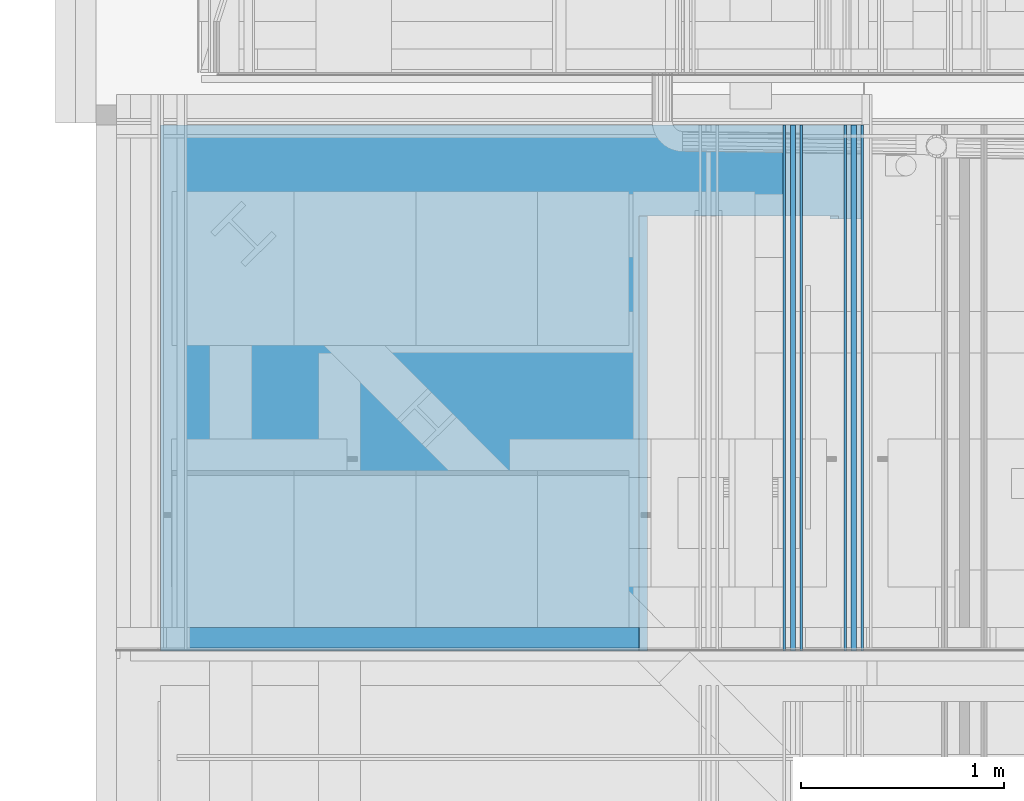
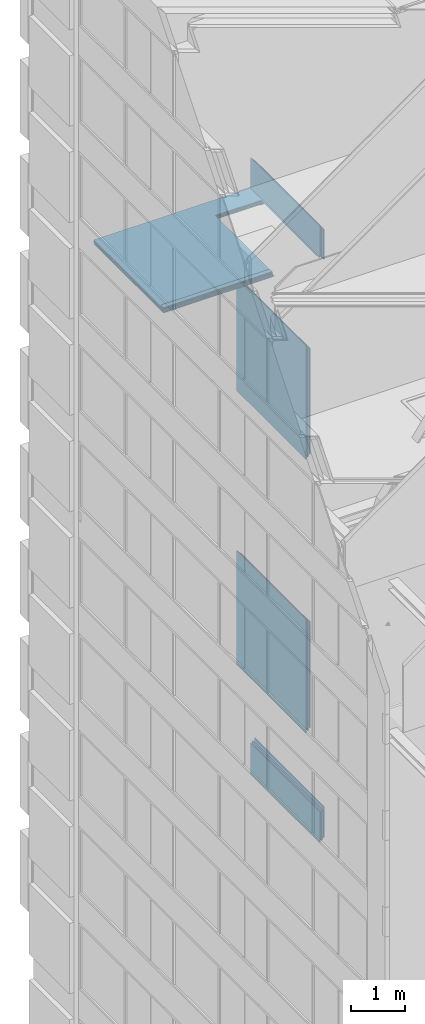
# One storey, part 85 of 583: 17 building element parts, 3 openings, 5 elements without a shape of their own.
"""IFC2X3 building model written with IfcOpenShell, lengths in metres."""

from ifc_helpers import new_model, entity, si_unit, converted_unit, derived_unit, money_unit, direction, frame, frame_2d, origin_with_axes, place, context, subcontext, project, spatial, polyline, rectangle, outline, extrude, material, type_object, element, aggregate, save


model = new_model("IFC2X3")

# Units and contexts
model_context = context("Model", 3, precision=1e-05, world=origin_with_axes(), true_north=direction((0.0, 1.0)))
body_context = subcontext(model_context, "Body", "Model", "MODEL_VIEW", scale=1.0)
ifc_project = project(units=[si_unit("LENGTHUNIT", "METRE"), si_unit("AREAUNIT", "SQUARE_METRE"), si_unit("VOLUMEUNIT", "CUBIC_METRE"), si_unit("ABSORBEDDOSEUNIT", "GRAY"), si_unit("AMOUNTOFSUBSTANCEUNIT", "MOLE"), si_unit("DOSEEQUIVALENTUNIT", "SIEVERT"), si_unit("ELECTRICCAPACITANCEUNIT", "FARAD"), si_unit("ELECTRICCHARGEUNIT", "COULOMB"), si_unit("ELECTRICCONDUCTANCEUNIT", "SIEMENS"), si_unit("ELECTRICCURRENTUNIT", "AMPERE"), si_unit("ELECTRICRESISTANCEUNIT", "OHM"), si_unit("ELECTRICVOLTAGEUNIT", "VOLT"), si_unit("ENERGYUNIT", "JOULE"), si_unit("FORCEUNIT", "NEWTON"), si_unit("FREQUENCYUNIT", "HERTZ"), si_unit("ILLUMINANCEUNIT", "LUX"), si_unit("INDUCTANCEUNIT", "HENRY"), si_unit("LUMINOUSFLUXUNIT", "LUMEN"), si_unit("LUMINOUSINTENSITYUNIT", "CANDELA"), si_unit("MAGNETICFLUXDENSITYUNIT", "TESLA"), si_unit("MAGNETICFLUXUNIT", "WEBER"), si_unit("MASSUNIT", "GRAM"), converted_unit("PLANEANGLEUNIT", "degree", entity("IfcReal", 0.0174532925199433), si_unit("PLANEANGLEUNIT", "RADIAN"), dimensions=[0, 0, 0, 0, 0, 0, 0]), si_unit("POWERUNIT", "WATT"), si_unit("PRESSUREUNIT", "PASCAL"), si_unit("RADIOACTIVITYUNIT", "BECQUEREL"), si_unit("SOLIDANGLEUNIT", "STERADIAN"), si_unit("THERMODYNAMICTEMPERATUREUNIT", "KELVIN"), si_unit("TIMEUNIT", "SECOND"), derived_unit("ACCELERATIONUNIT", [(si_unit("LENGTHUNIT", "METRE"), 1), (si_unit("TIMEUNIT", "SECOND"), -2)]), derived_unit("ANGULARVELOCITYUNIT", [(converted_unit("PLANEANGLEUNIT", "degree", entity("IfcReal", 0.0174532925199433), si_unit("PLANEANGLEUNIT", "RADIAN"), dimensions=[0, 0, 0, 0, 0, 0, 0]), 1), (si_unit("TIMEUNIT", "SECOND"), -1)]), derived_unit("CURVATUREUNIT", [(converted_unit("PLANEANGLEUNIT", "degree", entity("IfcReal", 0.0174532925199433), si_unit("PLANEANGLEUNIT", "RADIAN"), dimensions=[0, 0, 0, 0, 0, 0, 0]), 1), (si_unit("LENGTHUNIT", "METRE"), -1)]), derived_unit("DYNAMICVISCOSITYUNIT", [(si_unit("PRESSUREUNIT", "PASCAL"), 1), (si_unit("TIMEUNIT", "SECOND"), 1)]), derived_unit("HEATFLUXDENSITYUNIT", [(si_unit("POWERUNIT", "WATT"), 1), (si_unit("LENGTHUNIT", "METRE"), -2)]), derived_unit("HEATINGVALUEUNIT", [(si_unit("ENERGYUNIT", "JOULE"), 1), (si_unit("MASSUNIT", "GRAM"), -1)]), derived_unit("INTEGERCOUNTRATEUNIT", [(si_unit("TIMEUNIT", "SECOND"), -1)]), derived_unit("IONCONCENTRATIONUNIT", [(si_unit("MASSUNIT", "GRAM"), 1), (si_unit("VOLUMEUNIT", "CUBIC_METRE"), -1)]), derived_unit("ISOTHERMALMOISTURECAPACITYUNIT", [(si_unit("VOLUMEUNIT", "CUBIC_METRE"), 1), (si_unit("MASSUNIT", "GRAM"), -1)]), derived_unit("KINEMATICVISCOSITYUNIT", [(si_unit("AREAUNIT", "SQUARE_METRE"), 1), (si_unit("TIMEUNIT", "SECOND"), -1)]), derived_unit("LINEARFORCEUNIT", [(si_unit("FORCEUNIT", "NEWTON"), 1), (si_unit("LENGTHUNIT", "METRE"), -1)]), derived_unit("LINEARMOMENTUNIT", [(si_unit("FORCEUNIT", "NEWTON"), 1), (si_unit("LENGTHUNIT", "METRE"), -1)]), derived_unit("LINEARSTIFFNESSUNIT", [(si_unit("FORCEUNIT", "NEWTON"), 1), (si_unit("LENGTHUNIT", "METRE"), -1)]), derived_unit("LINEARVELOCITYUNIT", [(si_unit("LENGTHUNIT", "METRE"), 1), (si_unit("TIMEUNIT", "SECOND"), -1)]), derived_unit("LUMINOUSINTENSITYDISTRIBUTIONUNIT", [(si_unit("LUMINOUSINTENSITYUNIT", "CANDELA"), 1), (si_unit("LUMINOUSFLUXUNIT", "LUMEN"), -1)]), derived_unit("MASSDENSITYUNIT", [(si_unit("MASSUNIT", "GRAM"), 1), (si_unit("VOLUMEUNIT", "CUBIC_METRE"), -1)]), derived_unit("MASSFLOWRATEUNIT", [(si_unit("MASSUNIT", "GRAM"), 1), (si_unit("TIMEUNIT", "SECOND"), -1)]), derived_unit("MASSPERLENGTHUNIT", [(si_unit("MASSUNIT", "GRAM"), 1), (si_unit("LENGTHUNIT", "METRE"), -1)]), derived_unit("MODULUSOFELASTICITYUNIT", [(si_unit("FORCEUNIT", "NEWTON"), 1), (si_unit("AREAUNIT", "SQUARE_METRE"), -1)]), derived_unit("MODULUSOFLINEARSUBGRADEREACTIONUNIT", [(si_unit("FORCEUNIT", "NEWTON"), 1), (si_unit("LENGTHUNIT", "METRE"), -2)]), derived_unit("MODULUSOFROTATIONALSUBGRADEREACTIONUNIT", [(si_unit("FORCEUNIT", "NEWTON"), 1), (si_unit("LENGTHUNIT", "METRE"), 1)]), derived_unit("MODULUSOFSUBGRADEREACTIONUNIT", [(si_unit("FORCEUNIT", "NEWTON"), 1), (si_unit("VOLUMEUNIT", "CUBIC_METRE"), -1)]), derived_unit("MOISTUREDIFFUSIVITYUNIT", [(si_unit("VOLUMEUNIT", "CUBIC_METRE"), 1), (si_unit("TIMEUNIT", "SECOND"), -1)]), derived_unit("MOLECULARWEIGHTUNIT", [(si_unit("MASSUNIT", "GRAM"), 1), (si_unit("AMOUNTOFSUBSTANCEUNIT", "MOLE"), -1)]), derived_unit("PLANARFORCEUNIT", [(si_unit("FORCEUNIT", "NEWTON"), 1), (si_unit("LENGTHUNIT", "METRE"), -2)]), derived_unit("ROTATIONALFREQUENCYUNIT", [(si_unit("TIMEUNIT", "SECOND"), -1)]), derived_unit("ROTATIONALMASSUNIT", [(si_unit("MASSUNIT", "GRAM"), 1), (si_unit("LENGTHUNIT", "METRE"), 2)]), derived_unit("ROTATIONALSTIFFNESSUNIT", [(si_unit("FORCEUNIT", "NEWTON"), 1), (si_unit("LENGTHUNIT", "METRE"), 1), (converted_unit("PLANEANGLEUNIT", "degree", entity("IfcReal", 0.0174532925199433), si_unit("PLANEANGLEUNIT", "RADIAN"), dimensions=[0, 0, 0, 0, 0, 0, 0]), -1)]), derived_unit("SECTIONAREAINTEGRALUNIT", [(si_unit("LENGTHUNIT", "METRE"), 5)]), derived_unit("SECTIONMODULUSUNIT", [(si_unit("LENGTHUNIT", "METRE"), 3)]), derived_unit("SHEARMODULUSUNIT", [(si_unit("FORCEUNIT", "NEWTON"), 1), (si_unit("AREAUNIT", "SQUARE_METRE"), -1)]), derived_unit("SOUNDPOWERUNIT", [(si_unit("ENERGYUNIT", "JOULE"), 1), (si_unit("TIMEUNIT", "SECOND"), -1)]), derived_unit("SPECIFICHEATCAPACITYUNIT", [(si_unit("FORCEUNIT", "NEWTON"), 1), (si_unit("MASSUNIT", "GRAM"), -1), (si_unit("THERMODYNAMICTEMPERATUREUNIT", "KELVIN"), -1)]), derived_unit("TEMPERATUREGRADIENTUNIT", [(si_unit("THERMODYNAMICTEMPERATUREUNIT", "KELVIN"), 1), (si_unit("LENGTHUNIT", "METRE"), -1)]), derived_unit("THERMALADMITTANCEUNIT", [(si_unit("POWERUNIT", "WATT"), 1), (si_unit("AREAUNIT", "SQUARE_METRE"), -1), (si_unit("THERMODYNAMICTEMPERATUREUNIT", "KELVIN"), -1)]), derived_unit("THERMALCONDUCTANCEUNIT", [(si_unit("POWERUNIT", "WATT"), 1), (si_unit("LENGTHUNIT", "METRE"), -1), (si_unit("THERMODYNAMICTEMPERATUREUNIT", "KELVIN"), -1)]), derived_unit("THERMALEXPANSIONCOEFFICIENTUNIT", [(si_unit("THERMODYNAMICTEMPERATUREUNIT", "KELVIN"), -1)]), derived_unit("THERMALRESISTANCEUNIT", [(si_unit("AREAUNIT", "SQUARE_METRE"), 1), (si_unit("POWERUNIT", "WATT"), -1)]), derived_unit("THERMALTRANSMITTANCEUNIT", [(si_unit("POWERUNIT", "WATT"), 1), (si_unit("AREAUNIT", "SQUARE_METRE"), -1), (si_unit("THERMODYNAMICTEMPERATUREUNIT", "KELVIN"), -1)]), derived_unit("TORQUEUNIT", [(si_unit("FORCEUNIT", "NEWTON"), 1), (si_unit("LENGTHUNIT", "METRE"), 1)]), derived_unit("VAPORPERMEABILITYUNIT", [(si_unit("MASSUNIT", "GRAM"), 1), (si_unit("TIMEUNIT", "SECOND"), -1)]), derived_unit("VOLUMETRICFLOWRATEUNIT", [(si_unit("VOLUMEUNIT", "CUBIC_METRE"), 1), (si_unit("TIMEUNIT", "SECOND"), -1)]), derived_unit("WARPINGCONSTANTUNIT", [(si_unit("LENGTHUNIT", "METRE"), 6)]), derived_unit("WARPINGMOMENTUNIT", [(si_unit("FORCEUNIT", "NEWTON"), 1), (si_unit("LENGTHUNIT", "METRE"), 2)]), money_unit("GBP")], contexts=[model_context])

# Site, building, storey
site_placement = place(None, origin_with_axes())
site = spatial("IfcSite", under=ifc_project, at=site_placement, Name="Site", CompositionType="ELEMENT")
building_placement = place(site_placement, origin_with_axes())
building = spatial("IfcBuilding", under=site, at=building_placement, Name="Building01", CompositionType="ELEMENT")
storey_placement = place(building_placement, frame((0.0, 0.0, 20.78), z_axis=(0.0, 0.0, 1.0), x_axis=(1.0, 0.0, 0.0)))
storey = spatial("IfcBuildingStorey", under=building, at=storey_placement, Name="RL", CompositionType="ELEMENT", Elevation=20.78)

# Wall, building element parts
wall_type = type_object("IfcWallType", Name="SHE_A-Walls_Type05a_Partition_95mm_tall", PredefinedType="NOTDEFINED")
wall_1_placement = place(storey_placement, frame((3.72, 12.13, -13.545), z_axis=(0.0, 1.0, 0.0), x_axis=(0.0, 0.0, -1.0)))
wall_1 = element("IfcWall", 1, at=wall_1_placement, inside=storey, type_object=wall_type, Name="5A", ObjectType="SHE_A-Walls_Type05a_Partition_95mm_tall")
ifc_material_1 = material(Name="A_BSUK_Insulation")
placement_1 = place(wall_1_placement, origin_with_axes())
building_element_part_1 = element("IfcBuildingElementPart", 2, at=placement_1, material=ifc_material_1, Name="1", context=body_context, shape_type="SweptSolid", body=[
    extrude(outline(polyline([(0.7, 0.0), (0.0, 0.0), (0.0, -0.025), (0.675, -0.025), (0.7, 0.0)])), origin_with_axes(), (0.0, 0.0, 1.0), 2.59),
])
ifc_material_2 = material(Name="A_BSUK_WallInternal_Finishes_Plasterboard")
building_element_part_2 = element("IfcBuildingElementPart", 3, at=placement_1, material=ifc_material_2, Name="4", context=body_context, shape_type="SweptSolid", body=[
    extrude(outline(polyline([(0.735, 0.035), (0.035, 0.035), (0.023, 0.023), (0.723, 0.023), (0.735, 0.035)])), origin_with_axes(), (0.0, 0.0, 1.0), 2.59),
])
building_element_part_3 = element("IfcBuildingElementPart", 4, at=placement_1, material=ifc_material_2, Name="5", context=body_context, shape_type="SweptSolid", body=[
    extrude(outline(polyline([(0.652, -0.048), (-0.048, -0.048), (-0.06, -0.06), (0.64, -0.06), (0.652, -0.048)])), origin_with_axes(), (0.0, 0.0, 1.0), 2.59),
])
aggregate(wall_1, [building_element_part_1, building_element_part_2, building_element_part_3])

# Wall, openings, building element parts
wall_2_placement = place(storey_placement, frame((3.745, 12.13, -1.03), z_axis=(0.0, 1.0, 0.0), x_axis=(-1.0, 0.0, 0.0)))
wall_2 = element("IfcWall", 5, at=wall_2_placement, inside=storey, type_object=wall_type, Name="5A", ObjectType="SHE_A-Walls_Type05a_Partition_95mm_tall")
opening_1_placement = place(wall_2_placement, frame((-0.490781, -0.035, -0.015), z_axis=(0.0, 0.0, 1.0), x_axis=(1.0, 0.0, 0.0)))
element("IfcOpeningElement", 6, at=opening_1_placement, cuts=wall_2, Name="Opening", ObjectType="Opening", context=body_context, shape_type="SweptSolid", body=[
    extrude(rectangle(XDim=2.142, YDim=1.084, at=frame_2d((-0.542, 1.071), x_axis=(0.0, -1.0))), frame((0.0, -0.09, 0.0), z_axis=(0.0, 1.0, 0.0), x_axis=(-1.0, 0.0, 0.0)), (0.0, 0.0, 1.0), 0.18),
])
opening_2_placement = place(wall_2_placement, frame((0.129, 0.079, 0.0), z_axis=(0.0, 0.0, 1.0), x_axis=(1.0, 0.0, 0.0)))
element("IfcOpeningElement", 7, at=opening_2_placement, cuts=wall_2, Name="Opening", ObjectType="Opening", context=body_context, shape_type="SweptSolid", body=[
    extrude(rectangle(XDim=2.142, YDim=0.9, at=frame_2d((-0.45, 1.071), x_axis=(0.0, -1.0))), frame((0.0, -0.1185, 0.0), z_axis=(0.0, 1.0, 0.0), x_axis=(-1.0, 0.0, 0.0)), (0.0, 0.0, 1.0), 0.237),
])
opening_3_placement = place(wall_2_placement, frame((0.087, 0.06, 0.0), z_axis=(0.0, 0.0, 1.0), x_axis=(1.0, 0.0, 0.0)))
element("IfcOpeningElement", 8, at=opening_3_placement, cuts=wall_2, Name="Opening", ObjectType="Opening", context=body_context, shape_type="SweptSolid", body=[
    extrude(rectangle(XDim=2.142, YDim=0.984, at=frame_2d((-0.492, 1.071), x_axis=(0.0, -1.0))), frame((0.0, -0.09, 0.0), z_axis=(0.0, 1.0, 0.0), x_axis=(-1.0, 0.0, 0.0)), (0.0, 0.0, 1.0), 0.18),
])
placement_2 = place(wall_2_placement, origin_with_axes())
building_element_part_4 = element("IfcBuildingElementPart", 9, at=placement_2, material=ifc_material_1, Name="1", context=body_context, shape_type="SweptSolid", body=[
    extrude(rectangle(XDim=3.427, YDim=0.025, at=frame_2d((1.7135, 0.0125), x_axis=(-1.0, 0.0))), origin_with_axes(), (0.0, 0.0, 1.0), 2.59),
])
ifc_material_3 = material(Name="A_BSUK_Walls_Timber")
building_element_part_5 = element("IfcBuildingElementPart", 10, at=placement_2, material=ifc_material_3, Name="2", context=body_context, shape_type="SweptSolid", body=[
    extrude(rectangle(XDim=2.344, YDim=0.015, at=frame_2d((2.24, 0.0675), x_axis=(-1.0, 0.0))), frame((0.0, 0.0, 0.015), z_axis=(0.0, 0.0, 1.0), x_axis=(1.0, 0.0, 0.0)), (0.0, 0.0, 1.0), 0.1),
])
building_element_part_6 = element("IfcBuildingElementPart", 11, at=placement_2, material=ifc_material_3, Name="3", context=body_context, shape_type="SweptSolid", body=[
    extrude(rectangle(XDim=2.344, YDim=0.015, at=frame_2d((2.24, -0.0425), x_axis=(-1.0, 0.0))), frame((0.0, 0.0, 0.015), z_axis=(0.0, 0.0, 1.0), x_axis=(1.0, 0.0, 0.0)), (0.0, 0.0, 1.0), 0.1),
])
building_element_part_7 = element("IfcBuildingElementPart", 12, at=placement_2, material=ifc_material_2, Name="4", context=body_context, shape_type="SweptSolid", body=[
    extrude(outline(polyline([(3.427, 0.06), (0.06, 0.06), (0.048, 0.048), (3.427, 0.048), (3.427, 0.06)])), origin_with_axes(), (0.0, 0.0, 1.0), 2.59),
])
building_element_part_8 = element("IfcBuildingElementPart", 13, at=placement_2, material=ifc_material_2, Name="5", context=body_context, shape_type="SweptSolid", body=[
    extrude(outline(polyline([(3.427, -0.023), (-0.023, -0.023), (-0.035, -0.035), (3.427, -0.035), (3.427, -0.023)])), origin_with_axes(), (0.0, 0.0, 1.0), 2.59),
])
aggregate(wall_2, [building_element_part_4, building_element_part_5, building_element_part_6, building_element_part_7, building_element_part_8])

# Wall, building element parts
wall_3_placement = place(storey_placement, frame((3.72, 12.13, -1.005), z_axis=(0.0, 1.0, 0.0), x_axis=(0.0, 0.0, 1.0)))
wall_3 = element("IfcWall", 14, at=wall_3_placement, inside=storey, type_object=wall_type, Name="5A", ObjectType="SHE_A-Walls_Type05a_Partition_95mm_tall")
placement_3 = place(wall_3_placement, origin_with_axes())
building_element_part_9 = element("IfcBuildingElementPart", 15, at=placement_3, material=ifc_material_1, Name="1", context=body_context, shape_type="SweptSolid", body=[
    extrude(outline(polyline([(0.675, 0.025), (0.0, 0.025), (0.0, 0.0), (0.7, 0.0), (0.675, 0.025)])), origin_with_axes(), (0.0, 0.0, 1.0), 2.59),
])
building_element_part_10 = element("IfcBuildingElementPart", 16, at=placement_3, material=ifc_material_2, Name="4", context=body_context, shape_type="SweptSolid", body=[
    extrude(outline(polyline([(0.723, -0.023), (0.023, -0.023), (0.035, -0.035), (0.735, -0.035), (0.723, -0.023)])), origin_with_axes(), (0.0, 0.0, 1.0), 2.59),
])
building_element_part_11 = element("IfcBuildingElementPart", 17, at=placement_3, material=ifc_material_2, Name="5", context=body_context, shape_type="SweptSolid", body=[
    extrude(outline(polyline([(0.64, 0.06), (-0.06, 0.06), (-0.048, 0.048), (0.652, 0.048), (0.64, 0.06)])), origin_with_axes(), (0.0, 0.0, 1.0), 2.59),
])
aggregate(wall_3, [building_element_part_9, building_element_part_10, building_element_part_11])

wall_4_placement = place(storey_placement, frame((3.42, 12.13, -2.9125), z_axis=(0.0, 1.0, 0.0), x_axis=(0.0, 0.0, -1.0)))
wall_4 = element("IfcWall", 18, at=wall_4_placement, inside=storey, type_object=wall_type, Name="5A", ObjectType="SHE_A-Walls_Type05a_Partition_95mm_tall")
placement_4 = place(wall_4_placement, origin_with_axes())
building_element_part_12 = element("IfcBuildingElementPart", 19, at=placement_4, material=ifc_material_1, Name="1", context=body_context, shape_type="SweptSolid", body=[
    extrude(outline(polyline([(2.52, 0.0), (0.0, 0.0), (0.025, -0.025), (2.495, -0.025), (2.52, 0.0)])), origin_with_axes(), (0.0, 0.0, 1.0), 2.59),
])
building_element_part_13 = element("IfcBuildingElementPart", 20, at=placement_4, material=ifc_material_2, Name="4", context=body_context, shape_type="SweptSolid", body=[
    extrude(outline(polyline([(2.555, 0.035), (-0.035, 0.035), (-0.023, 0.023), (2.543, 0.023), (2.555, 0.035)])), origin_with_axes(), (0.0, 0.0, 1.0), 2.59),
])
building_element_part_14 = element("IfcBuildingElementPart", 21, at=placement_4, material=ifc_material_2, Name="5", context=body_context, shape_type="SweptSolid", body=[
    extrude(outline(polyline([(2.472, -0.048), (0.048, -0.048), (0.06, -0.06), (2.46, -0.06), (2.472, -0.048)])), origin_with_axes(), (0.0, 0.0, 1.0), 2.59),
])
aggregate(wall_4, [building_element_part_12, building_element_part_13, building_element_part_14])

wall_5_placement = place(storey_placement, frame((3.42, 12.13, -11.647464), z_axis=(0.0, 1.0, 0.0), x_axis=(0.0, 0.0, 1.0)))
wall_5 = element("IfcWall", 22, at=wall_5_placement, inside=storey, type_object=wall_type, Name="5A", ObjectType="SHE_A-Walls_Type05a_Partition_95mm_tall")
placement_5 = place(wall_5_placement, origin_with_axes())
building_element_part_15 = element("IfcBuildingElementPart", 23, at=placement_5, material=ifc_material_1, Name="1", context=body_context, shape_type="SweptSolid", body=[
    extrude(outline(polyline([(2.495, 0.025), (0.025, 0.025), (0.0, 0.0), (2.52, 0.0), (2.495, 0.025)])), origin_with_axes(), (0.0, 0.0, 1.0), 2.59),
])
building_element_part_16 = element("IfcBuildingElementPart", 24, at=placement_5, material=ifc_material_2, Name="4", context=body_context, shape_type="SweptSolid", body=[
    extrude(outline(polyline([(2.543, -0.023), (-0.023, -0.023), (-0.035, -0.035), (2.555, -0.035), (2.543, -0.023)])), origin_with_axes(), (0.0, 0.0, 1.0), 2.59),
])
building_element_part_17 = element("IfcBuildingElementPart", 25, at=placement_5, material=ifc_material_2, Name="5", context=body_context, shape_type="SweptSolid", body=[
    extrude(outline(polyline([(2.46, 0.06), (0.06, 0.06), (0.048, 0.048), (2.472, 0.048), (2.46, 0.06)])), origin_with_axes(), (0.0, 0.0, 1.0), 2.59),
])
aggregate(wall_5, [building_element_part_15, building_element_part_16, building_element_part_17])

save(model, "model.ifc")
